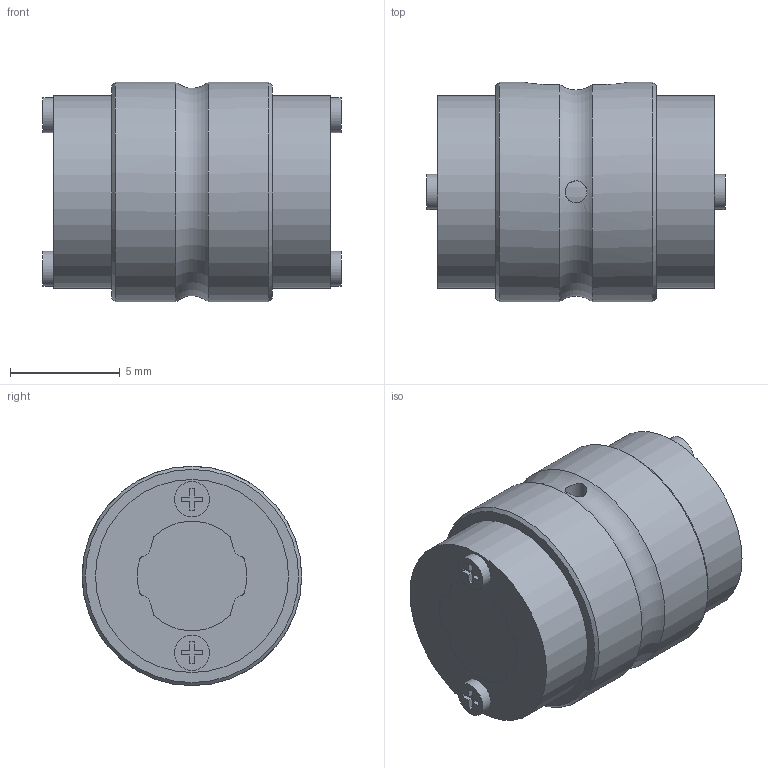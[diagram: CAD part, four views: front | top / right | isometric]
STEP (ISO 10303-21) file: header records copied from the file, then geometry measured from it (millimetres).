
FILE_DESCRIPTION(/* description */ ('STEP AP203'),/* implementation_level */ '2;1');
FILE_NAME(/* name */ 'LT5X+12.6L(00)',/* time_stamp */ '2024-05-28T07:06:47+02:00',/* author */ ('License CC BY-ND 4.0'),/* organization */ ('CADENAS'),/* preprocessor_version */ 'ST-DEVELOPER v19.3',/* originating_system */ 'PARTsolutions',/* authorisation */ ' ');
FILE_SCHEMA (('CONFIG_CONTROL_DESIGN'));
Length unit declared in the file: millimetre
Products named in the file (3): LT5X+12.6L(00); 1LT5X 12.6Shaft; 1LT5X Cylindar
Assembly tree (2 placements, depth 2):
  LT5X+12.6L(00)
    1LT5X 12.6Shaft
    1LT5X Cylindar
Bounding box: 13.6 x 10 x 10 mm (x, y, z)
Volume: 878 mm3; surface area: 968.7 mm2
Topology: 2 solids, 2 shells, 120 faces, 320 edges, 214 vertices
Faces by surface type: plane 73, cylinder 44, cone 2, torus 1
Full cylindrical faces by diameter (mm): 1 x2, 1.6 x4, 8.8 x2, 10 x2
Entity records: 3761 total; most frequent: CARTESIAN_POINT 693, DIRECTION 624, ORIENTED_EDGE 604, EDGE_CURVE 302, LINE 210, VECTOR 210, VERTEX_POINT 208, AXIS2_PLACEMENT_3D 207
